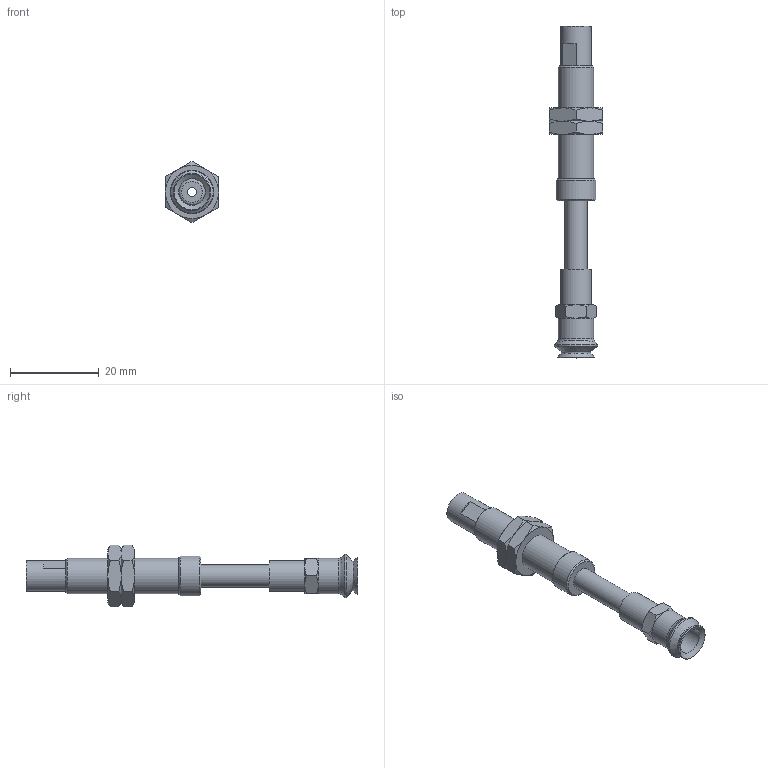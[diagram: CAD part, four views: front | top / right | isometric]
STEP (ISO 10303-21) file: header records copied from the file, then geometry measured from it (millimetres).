
FILE_DESCRIPTION(('STEP AP203'),'1');
FILE_NAME('-PE.stp','2025-04-25T02:23:01',(' '),(' '),'Spatial InterOp 3D',' ',' ');
FILE_SCHEMA(('CONFIG_CONTROL_DESIGN'));
Length unit declared in the file: millimetre
Products named in the file (8): BNABPJTS-8-15-※-PE; NUT; BODY; STOPPER; ZIG; PS-8-J-M- body; BPJG-8-_
Assembly tree (7 placements, depth 2):
  BNABPJTS-8-15-※-PE
    NUT
    NUT
    BODY
    STOPPER
    ZIG
    PS-8-J-M- body
    BPJG-8-_
Bounding box: 12 x 75 x 13.86 mm (x, y, z)
Volume: 3062.8 mm3; surface area: 4655.7 mm2
Topology: 7 solids, 7 shells, 133 faces, 274 edges, 165 vertices
Faces by surface type: cone 55, plane 46, cylinder 24, torus 8
Full cylindrical faces by diameter (mm): 2 x2, 3.4 x1, 3.5 x1, 4 x5, 4.2 x2, 5 x3, 5.2 x1, 6 x2, 7 x2, 7.25 x2, 8 x2, 9 x1
Entity records: 3586 total; most frequent: CARTESIAN_POINT 709, DIRECTION 530, ORIENTED_EDGE 418, AXIS2_PLACEMENT_3D 252, EDGE_CURVE 209, EDGE_LOOP 208, FACE_OUTER_BOUND 165, VERTEX_POINT 151
